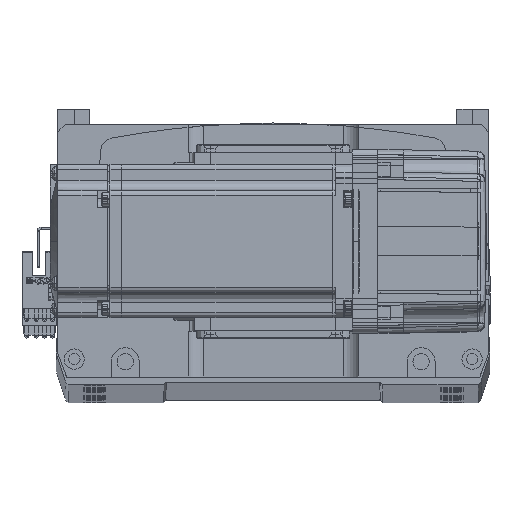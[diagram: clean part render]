
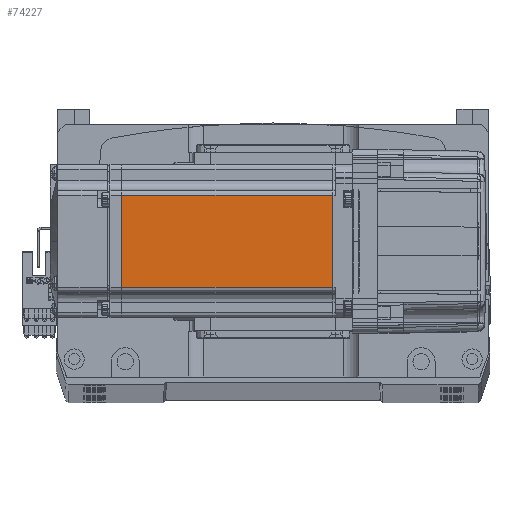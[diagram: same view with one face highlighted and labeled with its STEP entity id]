
A CAD part, top view. The second image highlights one B-rep face of the part: STEP entity #74227.
In plain terms, the highlighted planar face has unit normal (0, 0, 1).
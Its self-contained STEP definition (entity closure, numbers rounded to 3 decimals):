
#1776 = CARTESIAN_POINT ( 'NONE',  ( -90.45, -18., 30. ) ) ;
#2471 = VECTOR ( 'NONE', #2725, 1000. ) ;
#2725 = DIRECTION ( 'NONE',  ( 0., -1., 0. ) ) ;
#3013 = LINE ( 'NONE', #38172, #28294 ) ;
#4282 = LINE ( 'NONE', #47917, #2471 ) ;
#6563 = EDGE_CURVE ( 'NONE', #45041, #28918, #3013, .T. ) ;
#7795 = ORIENTED_EDGE ( 'NONE', *, *, #54214, .F. ) ;
#11269 = LINE ( 'NONE', #65177, #40166 ) ;
#14333 = CARTESIAN_POINT ( 'NONE',  ( -7.75, 18., 30. ) ) ;
#20017 = ORIENTED_EDGE ( 'NONE', *, *, #58485, .T. ) ;
#22217 = DIRECTION ( 'NONE',  ( 1., 0., 0. ) ) ;
#28017 = DIRECTION ( 'NONE',  ( 0., 0., 1. ) ) ;
#28294 = VECTOR ( 'NONE', #49546, 1000. ) ;
#28918 = VERTEX_POINT ( 'NONE', #54434 ) ;
#32499 = DIRECTION ( 'NONE',  ( -1., 0., 0. ) ) ;
#33541 = CARTESIAN_POINT ( 'NONE',  ( -6.5, -25., 30. ) ) ;
#38172 = CARTESIAN_POINT ( 'NONE',  ( -6.5, 18., 30. ) ) ;
#40166 = VECTOR ( 'NONE', #59607, 1000. ) ;
#45041 = VERTEX_POINT ( 'NONE', #14333 ) ;
#47917 = CARTESIAN_POINT ( 'NONE',  ( -90.45, 0., 30. ) ) ;
#48637 = FACE_OUTER_BOUND ( 'NONE', #67532, .T. ) ;
#49546 = DIRECTION ( 'NONE',  ( -1., 0., 0. ) ) ;
#54214 = EDGE_CURVE ( 'NONE', #45041, #59852, #11269, .T. ) ;
#54434 = CARTESIAN_POINT ( 'NONE',  ( -90.45, 18., 30. ) ) ;
#57003 = VERTEX_POINT ( 'NONE', #1776 ) ;
#58485 = EDGE_CURVE ( 'NONE', #28918, #57003, #4282, .T. ) ;
#59607 = DIRECTION ( 'NONE',  ( 0., -1., 0. ) ) ;
#59852 = VERTEX_POINT ( 'NONE', #65850 ) ;
#60986 = EDGE_CURVE ( 'NONE', #59852, #57003, #70801, .T. ) ;
#61191 = ORIENTED_EDGE ( 'NONE', *, *, #6563, .T. ) ;
#65177 = CARTESIAN_POINT ( 'NONE',  ( -7.75, 0., 30. ) ) ;
#65850 = CARTESIAN_POINT ( 'NONE',  ( -7.75, -18., 30. ) ) ;
#66707 = AXIS2_PLACEMENT_3D ( 'NONE', #33541, #28017, #22217 ) ;
#67103 = CARTESIAN_POINT ( 'NONE',  ( -6.5, -18., 30. ) ) ;
#67174 = VECTOR ( 'NONE', #32499, 1000. ) ;
#67532 = EDGE_LOOP ( 'NONE', ( #7795, #61191, #20017, #72951 ) ) ;
#68151 = PLANE ( 'NONE',  #66707 ) ;
#70801 = LINE ( 'NONE', #67103, #67174 ) ;
#72951 = ORIENTED_EDGE ( 'NONE', *, *, #60986, .F. ) ;
#74227 = ADVANCED_FACE ( 'NONE', ( #48637 ), #68151, .T. ) ;
